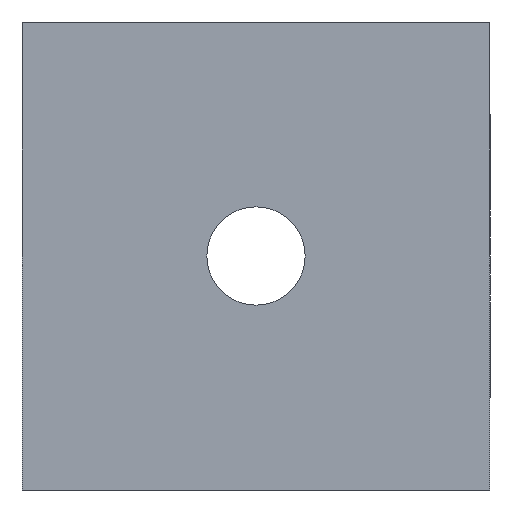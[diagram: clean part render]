
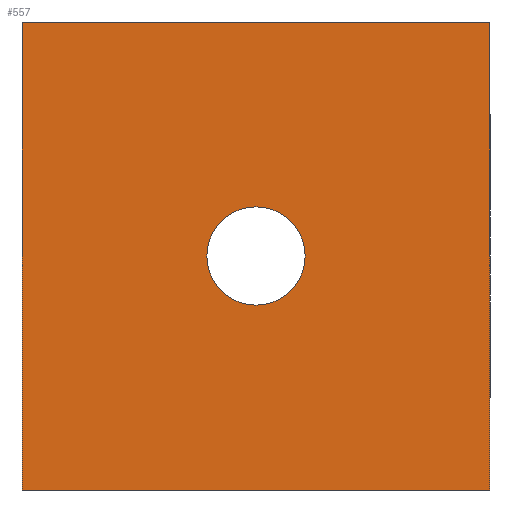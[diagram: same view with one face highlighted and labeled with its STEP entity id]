
A CAD part, left-side view. The second image highlights one B-rep face of the part: STEP entity #557.
In plain terms, the highlighted planar face has unit normal (-1, 0, 0).
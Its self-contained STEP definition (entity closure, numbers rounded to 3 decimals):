
#12 = CARTESIAN_POINT ( 'NONE',  ( 0., -40., 40. ) ) ;
#55 = LINE ( 'NONE', #12, #528 ) ;
#71 = ORIENTED_EDGE ( 'NONE', *, *, #348, .T. ) ;
#83 = ORIENTED_EDGE ( 'NONE', *, *, #553, .T. ) ;
#98 = DIRECTION ( 'NONE',  ( 0., 1., 0. ) ) ;
#100 = DIRECTION ( 'NONE',  ( 1., 0., 0. ) ) ;
#102 = LINE ( 'NONE', #107, #113 ) ;
#107 = CARTESIAN_POINT ( 'NONE',  ( 0., 0., 0. ) ) ;
#113 = VECTOR ( 'NONE', #186, 1000. ) ;
#119 = CIRCLE ( 'NONE', #440, 4.2 ) ;
#144 = EDGE_LOOP ( 'NONE', ( #238, #397 ) ) ;
#147 = EDGE_LOOP ( 'NONE', ( #83, #178, #534, #71 ) ) ;
#149 = EDGE_CURVE ( 'NONE', #416, #386, #417, .T. ) ;
#158 = DIRECTION ( 'NONE',  ( 1., 0., 0. ) ) ;
#162 = CARTESIAN_POINT ( 'NONE',  ( 0., -20., 20. ) ) ;
#178 = ORIENTED_EDGE ( 'NONE', *, *, #490, .F. ) ;
#181 = VERTEX_POINT ( 'NONE', #385 ) ;
#184 = VECTOR ( 'NONE', #216, 1000. ) ;
#186 = DIRECTION ( 'NONE',  ( 0., -1., 0. ) ) ;
#190 = CARTESIAN_POINT ( 'NONE',  ( 0., -40., 0. ) ) ;
#192 = CARTESIAN_POINT ( 'NONE',  ( 0., -20., 20. ) ) ;
#200 = FACE_OUTER_BOUND ( 'NONE', #147, .T. ) ;
#213 = EDGE_CURVE ( 'NONE', #386, #416, #119, .T. ) ;
#214 = DIRECTION ( 'NONE',  ( 0., 0., -1. ) ) ;
#216 = DIRECTION ( 'NONE',  ( 0., 0., -1. ) ) ;
#226 = CARTESIAN_POINT ( 'NONE',  ( 0., 0., 40. ) ) ;
#231 = DIRECTION ( 'NONE',  ( 0., 0., -1. ) ) ;
#234 = VERTEX_POINT ( 'NONE', #342 ) ;
#238 = ORIENTED_EDGE ( 'NONE', *, *, #149, .T. ) ;
#291 = CARTESIAN_POINT ( 'NONE',  ( 0., 0., 40. ) ) ;
#311 = CARTESIAN_POINT ( 'NONE',  ( 0., -20., 24.2 ) ) ;
#342 = CARTESIAN_POINT ( 'NONE',  ( 0., 0., 40. ) ) ;
#348 = EDGE_CURVE ( 'NONE', #234, #572, #498, .T. ) ;
#371 = FACE_BOUND ( 'NONE', #144, .T. ) ;
#385 = CARTESIAN_POINT ( 'NONE',  ( 0., -40., 40. ) ) ;
#386 = VERTEX_POINT ( 'NONE', #311 ) ;
#392 = EDGE_CURVE ( 'NONE', #234, #181, #404, .T. ) ;
#396 = CARTESIAN_POINT ( 'NONE',  ( 0., -20., 15.8 ) ) ;
#397 = ORIENTED_EDGE ( 'NONE', *, *, #213, .T. ) ;
#404 = LINE ( 'NONE', #454, #448 ) ;
#416 = VERTEX_POINT ( 'NONE', #396 ) ;
#417 = CIRCLE ( 'NONE', #469, 4.2 ) ;
#420 = DIRECTION ( 'NONE',  ( 0., 0., -1. ) ) ;
#440 = AXIS2_PLACEMENT_3D ( 'NONE', #162, #158, #214 ) ;
#445 = DIRECTION ( 'NONE',  ( 0., -1., 0. ) ) ;
#448 = VECTOR ( 'NONE', #445, 1000. ) ;
#454 = CARTESIAN_POINT ( 'NONE',  ( 0., 0., 40. ) ) ;
#464 = AXIS2_PLACEMENT_3D ( 'NONE', #291, #472, #98 ) ;
#469 = AXIS2_PLACEMENT_3D ( 'NONE', #192, #100, #231 ) ;
#472 = DIRECTION ( 'NONE',  ( 1., 0., 0. ) ) ;
#490 = EDGE_CURVE ( 'NONE', #181, #550, #55, .T. ) ;
#498 = LINE ( 'NONE', #226, #184 ) ;
#504 = PLANE ( 'NONE',  #464 ) ;
#523 = CARTESIAN_POINT ( 'NONE',  ( 0., 0., 0. ) ) ;
#528 = VECTOR ( 'NONE', #420, 1000. ) ;
#534 = ORIENTED_EDGE ( 'NONE', *, *, #392, .F. ) ;
#550 = VERTEX_POINT ( 'NONE', #190 ) ;
#553 = EDGE_CURVE ( 'NONE', #572, #550, #102, .T. ) ;
#557 = ADVANCED_FACE ( 'NONE', ( #371, #200 ), #504, .F. ) ;
#572 = VERTEX_POINT ( 'NONE', #523 ) ;
